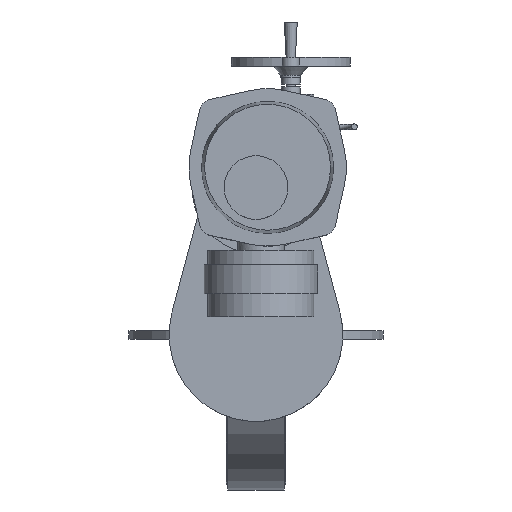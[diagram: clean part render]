
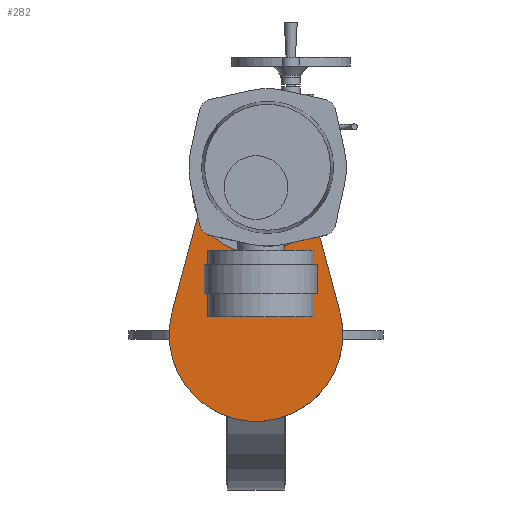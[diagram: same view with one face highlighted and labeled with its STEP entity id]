
A CAD part, top view. The second image highlights one B-rep face of the part: STEP entity #282.
In plain terms, the highlighted planar face has unit normal (0, 0, 1).
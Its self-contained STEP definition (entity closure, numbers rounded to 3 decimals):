
#282=ADVANCED_FACE('',(#2206),#2208,.F.);
#2206=FACE_BOUND('',#2207,.T.);
#2207=EDGE_LOOP('',(#3780,#3781,#3782,#3783,#3784));
#2208=PLANE('',#2209);
#2209=AXIS2_PLACEMENT_3D('',#2210,#2211,#2212);
#2210=CARTESIAN_POINT('',(20.,288.,511.));
#2211=DIRECTION('',(0.,0.,-1.));
#2212=DIRECTION('',(0.,1.,0.));
#3780=ORIENTED_EDGE('',*,*,#4599,.T.);
#3781=ORIENTED_EDGE('',*,*,#4600,.T.);
#3782=ORIENTED_EDGE('',*,*,#4601,.F.);
#3783=ORIENTED_EDGE('',*,*,#4565,.F.);
#3784=ORIENTED_EDGE('',*,*,#4602,.F.);
#4565=EDGE_CURVE('',#5022,#5023,#5024,.T.);
#4599=EDGE_CURVE('',#5090,#5091,#5092,.F.);
#4600=EDGE_CURVE('',#5091,#5093,#5094,.F.);
#4601=EDGE_CURVE('',#5023,#5093,#5095,.T.);
#4602=EDGE_CURVE('',#5090,#5022,#5096,.T.);
#5022=VERTEX_POINT('',#5877);
#5023=VERTEX_POINT('',#5878);
#5024=CIRCLE('',#5879,150.);
#5090=VERTEX_POINT('',#6173);
#5091=VERTEX_POINT('',#6174);
#5092=CIRCLE('',#6175,85.);
#5093=VERTEX_POINT('',#6179);
#5094=CIRCLE('',#6180,85.);
#5095=LINE('',#6184,#6185);
#5096=LINE('',#6187,#6188);
#5877=CARTESIAN_POINT('',(144.841,39.,511.));
#5878=CARTESIAN_POINT('',(-144.841,39.,511.));
#5879=AXIS2_PLACEMENT_3D('',#5880,#5881,#5882);
#5880=CARTESIAN_POINT('',(0.,0.,511.));
#5881=DIRECTION('',(0.,0.,-1.));
#5882=DIRECTION('',(0.966,0.26,0.));
#6173=CARTESIAN_POINT('',(82.077,272.1,511.));
#6174=CARTESIAN_POINT('',(0.,165.,511.));
#6175=AXIS2_PLACEMENT_3D('',#6176,#6177,#6178);
#6176=CARTESIAN_POINT('',(0.,250.,511.));
#6177=DIRECTION('',(0.,0.,1.));
#6178=DIRECTION('',(0.,-1.,0.));
#6179=CARTESIAN_POINT('',(-82.077,272.1,511.));
#6180=AXIS2_PLACEMENT_3D('',#6181,#6182,#6183);
#6181=CARTESIAN_POINT('',(0.,250.,511.));
#6182=DIRECTION('',(0.,0.,1.));
#6183=DIRECTION('',(-0.966,0.26,0.));
#6184=CARTESIAN_POINT('',(-144.841,39.,511.));
#6185=VECTOR('',#6186,1.);
#6186=DIRECTION('',(0.26,0.966,0.));
#6187=CARTESIAN_POINT('',(82.077,272.1,511.));
#6188=VECTOR('',#6189,1.);
#6189=DIRECTION('',(0.26,-0.966,0.));
